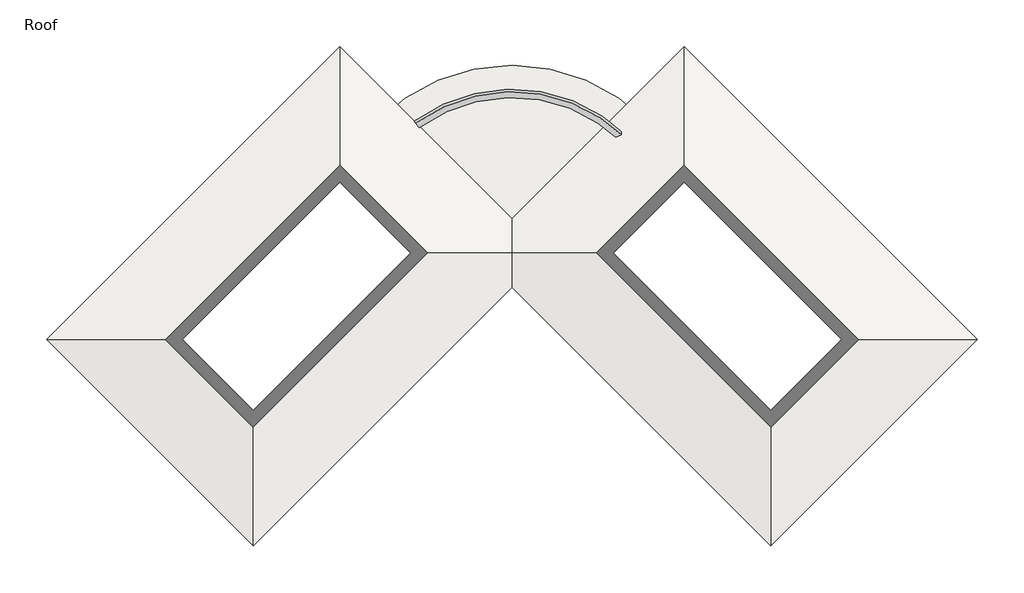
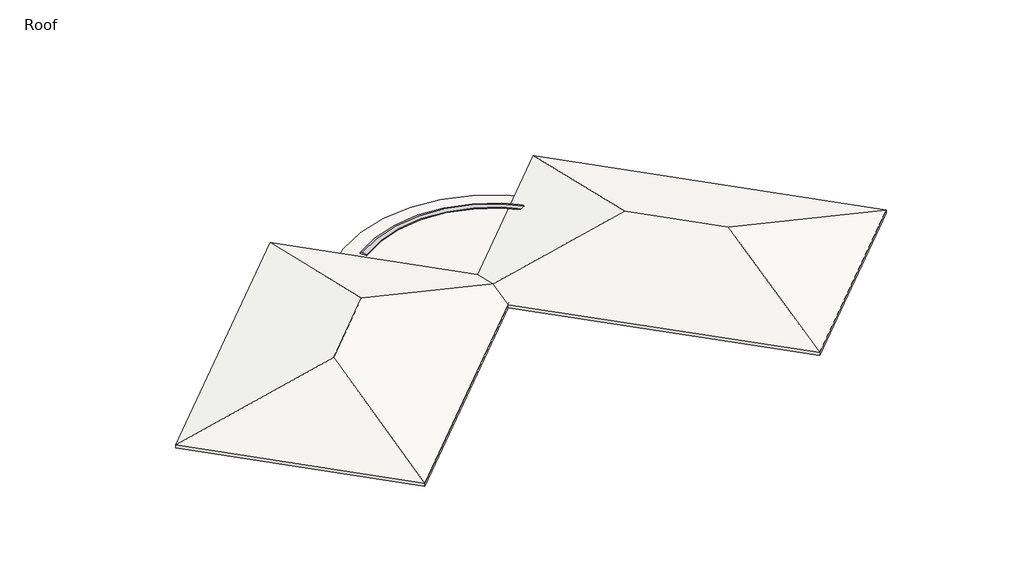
# One storey: 9 proxies, 3 roofs.
"""IFC4 building model written with IfcOpenShell, lengths in millimetres."""

from ifc_helpers import new_model, si_unit, point, frame, frame_2d, origin, place, context, project, spatial, polyline, circle_curve, trimmed, segment, composite_curve, outline, extrude, faceted_brep, element, save
from ifc_brep_helpers import plane_surface, cylinder_surface, revolved_surface, advanced_brep

model = new_model("IFC4")

# Units and contexts
model_context = context("Model", 3, world=origin())
ifc_project = project(units=[si_unit("LENGTHUNIT", "METRE", prefix="MILLI")], contexts=[model_context])

# Site, building, storey
site = spatial("IfcSite", under=ifc_project)
building = spatial("IfcBuilding", under=site)
storey = spatial("IfcBuildingStorey", under=building, Name="Roof", Elevation=4572.0)

# Proxies
placement = place(None, origin())
element("IfcBuildingElementProxy", 1, Name="Wall Sweeps", at=placement, inside=storey, context=model_context, shape_type="Brep", body=[
    faceted_brep([(4057.9485283, 9339.6949534, 4635.5), (3860.3828937, 9537.2605881, 4673.6), (3770.5803325, 9627.0631493, 4635.5), (3770.5803325, 9627.0631493, 4572.0), (4057.9485283, 9339.6949534, 4572.0), (5753.0175119, 11034.763937, 4635.5), (5753.0175119, 11034.763937, 4572.0), (5753.0175119, 11609.5003287, 4572.0), (5753.0175119, 11609.5003287, 4635.5), (5753.0175119, 11429.8952063, 4673.6)], [[[0, 1, 2, 3, 4]], [[5, 6, 7, 8, 9]], [[1, 0, 5, 9]], [[2, 1, 9, 8]], [[3, 2, 8, 7]], [[4, 3, 7, 6]], [[0, 4, 6, 5]]]),
])
element("IfcBuildingElementProxy", 2, Name="Wall Sweeps", at=placement, inside=storey, context=model_context, shape_type="Brep", body=[
    faceted_brep([(5753.0175119, 11034.763937, 4635.5), (5753.0175119, 11429.8952063, 4673.6), (5753.0175119, 11609.5003287, 4635.5), (5753.0175119, 11609.5003287, 4572.0), (5753.0175119, 11034.763937, 4572.0), (18145.770959, -1357.9895101, 4635.5), (18145.770959, -1357.9895101, 4572.0), (18720.5073507, -1357.9895101, 4572.0), (18720.5073507, -1357.9895101, 4635.5), (18540.9022283, -1357.9895101, 4673.6)], [[[0, 1, 2, 3, 4]], [[5, 6, 7, 8, 9]], [[1, 0, 5, 9]], [[2, 1, 9, 8]], [[3, 2, 8, 7]], [[4, 3, 7, 6]], [[0, 4, 6, 5]]]),
])
element("IfcBuildingElementProxy", 3, Name="Wall Sweeps", at=placement, inside=storey, context=model_context, shape_type="Brep", body=[
    faceted_brep([(18145.770959, -1357.9895101, 4635.5), (18540.9022283, -1357.9895101, 4673.6), (18720.5073507, -1357.9895101, 4635.5), (18720.5073507, -1357.9895101, 4572.0), (18145.770959, -1357.9895101, 4572.0), (10063.54045, -9440.2200191, 4635.5), (10063.54045, -9440.2200191, 4572.0), (10063.54045, -10014.9564108, 4572.0), (10063.54045, -10014.9564108, 4635.5), (10063.54045, -9835.3512884, 4673.6)], [[[0, 1, 2, 3, 4]], [[5, 6, 7, 8, 9]], [[1, 0, 5, 9]], [[2, 1, 9, 8]], [[3, 2, 8, 7]], [[4, 3, 7, 6]], [[0, 4, 6, 5]]]),
])
element("IfcBuildingElementProxy", 4, Name="Wall Sweeps", at=placement, inside=storey, context=model_context, shape_type="Brep", body=[
    faceted_brep([(10063.54045, -9440.2200191, 4635.5), (10063.54045, -9835.3512884, 4673.6), (10063.54045, -10014.9564108, 4635.5), (10063.54045, -10014.9564108, 4572.0), (10063.54045, -9440.2200191, 4572.0), (-1736.5160931, 2359.836524, 4635.5), (-1736.5160931, 2359.836524, 4572.0), (-1756.7216693, 2339.6309478, 4572.0), (-2005.9237767, 2090.4288404, 4572.0), (-2023.8842889, 2072.4683282, 4572.0), (-2023.8842889, 2072.4683282, 4635.5), (-1934.0817277, 2162.2708894, 4673.6)], [[[0, 1, 2, 3, 4]], [[5, 6, 7, 8, 9, 10, 11]], [[1, 0, 5, 11]], [[2, 1, 11, 10]], [[3, 2, 10, 9]], [[4, 3, 9, 8, 7, 6]], [[0, 4, 6, 5]]]),
    faceted_brep([(-2598.6206807, 3221.9411117, 4635.5), (-2796.1863153, 3024.375477, 4673.6), (-2885.9888765, 2934.5729158, 4635.5), (-2885.9888765, 2934.5729158, 4572.0), (-2598.6206807, 3221.9411117, 4572.0), (-2847.822788, 3471.143219, 4635.5), (-2847.822788, 3471.143219, 4572.0), (-3135.1909839, 3183.7750231, 4572.0), (-3135.1909839, 3183.7750231, 4635.5), (-3045.3884227, 3273.5775843, 4673.6)], [[[0, 1, 2, 3, 4]], [[5, 6, 7, 8, 9]], [[1, 0, 5, 9]], [[2, 1, 9, 8]], [[3, 2, 8, 7]], [[4, 3, 7, 6]], [[0, 4, 6, 5]]]),
])
element("IfcBuildingElementProxy", 5, Name="Wall Sweeps", at=placement, inside=storey, context=model_context, shape_type="Brep", body=[
    faceted_brep([(-3137.4360479, 3221.9411117, 4635.5), (-2939.8704133, 3024.375477, 4673.6), (-2850.0678521, 2934.5729158, 4635.5), (-2850.0678521, 2934.5729158, 4572.0), (-2868.0283643, 2952.533428, 4572.0), (-3117.2304717, 3201.7355354, 4572.0), (-3137.4360479, 3221.9411117, 4572.0), (-15799.5971786, -9440.2200191, 4635.5), (-15799.5971786, -9440.2200191, 4572.0), (-15799.5971786, -10014.9564108, 4572.0), (-15799.5971786, -10014.9564108, 4635.5), (-15799.5971786, -9835.3512884, 4673.6)], [[[0, 1, 2, 3, 4, 5, 6]], [[7, 8, 9, 10, 11]], [[1, 0, 7, 11]], [[2, 1, 11, 10]], [[3, 2, 10, 9]], [[6, 5, 4, 3, 9, 8]], [[0, 6, 8, 7]]]),
])
element("IfcBuildingElementProxy", 6, Name="Wall Sweeps", at=placement, inside=storey, context=model_context, shape_type="Brep", body=[
    faceted_brep([(-15799.5971786, -9440.2200191, 4635.5), (-15799.5971786, -9835.3512884, 4673.6), (-15799.5971786, -10014.9564108, 4635.5), (-15799.5971786, -10014.9564108, 4572.0), (-15799.5971786, -9440.2200191, 4572.0), (-23881.8276876, -1357.9895101, 4635.5), (-23881.8276876, -1357.9895101, 4572.0), (-24456.5640794, -1357.9895101, 4572.0), (-24456.5640794, -1357.9895101, 4635.5), (-24276.9589569, -1357.9895101, 4673.6)], [[[0, 1, 2, 3, 4]], [[5, 6, 7, 8, 9]], [[1, 0, 5, 9]], [[2, 1, 9, 8]], [[3, 2, 8, 7]], [[4, 3, 7, 6]], [[0, 4, 6, 5]]]),
])
element("IfcBuildingElementProxy", 7, Name="Wall Sweeps", at=placement, inside=storey, context=model_context, shape_type="Brep", body=[
    faceted_brep([(-23881.8276876, -1357.9895101, 4635.5), (-24276.9589569, -1357.9895101, 4673.6), (-24456.5640794, -1357.9895101, 4635.5), (-24456.5640794, -1357.9895101, 4572.0), (-23881.8276876, -1357.9895101, 4572.0), (-11489.0742405, 11034.763937, 4635.5), (-11489.0742405, 11034.763937, 4572.0), (-11489.0742405, 11609.5003287, 4572.0), (-11489.0742405, 11609.5003287, 4635.5), (-11489.0742405, 11429.8952063, 4673.6)], [[[0, 1, 2, 3, 4]], [[5, 6, 7, 8, 9]], [[1, 0, 5, 9]], [[2, 1, 9, 8]], [[3, 2, 8, 7]], [[4, 3, 7, 6]], [[0, 4, 6, 5]]]),
])
element("IfcBuildingElementProxy", 8, Name="Wall Sweeps", at=placement, inside=storey, context=model_context, shape_type="Brep", body=[
    faceted_brep([(-11489.0742405, 11034.763937, 4635.5), (-11489.0742405, 11429.8952063, 4673.6), (-11489.0742405, 11609.5003287, 4635.5), (-11489.0742405, 11609.5003287, 4572.0), (-11489.0742405, 11034.763937, 4572.0), (-8931.8939077, 8477.5836041, 4635.5), (-8931.8939077, 8477.5836041, 4572.0), (-8911.6883314, 8497.7891804, 4572.0), (-8662.486224, 8746.9912878, 4572.0), (-8644.5257118, 8764.9518, 4572.0), (-8644.5257118, 8764.9518, 4635.5), (-8734.328273, 8675.1492388, 4673.6), (-8836.2976328, 8573.179879, 4653.9354839), (-8911.6883314, 8497.7891804, 4639.3965909)], [[[0, 1, 2, 3, 4]], [[5, 6, 7, 8, 9, 10, 11, 12, 13]], [[1, 0, 5, 13, 12, 11]], [[2, 1, 11, 10]], [[3, 2, 10, 9]], [[4, 3, 9, 8, 7, 6]], [[0, 4, 6, 5]]]),
])
element("IfcBuildingElementProxy", 9, Name="Wall Sweeps", at=placement, inside=storey, context=model_context, shape_type="AdvancedBrep", body=[
    advanced_brep(
    [(-7507.26102, 9233.8641208, 4635.5), (-7672.4116971, 9459.2296325, 4673.6), (-7747.4801867, 9561.6685015, 4635.5), (-7747.4801867, 9561.6685015, 4572.0), (-7507.26102, 9233.8641208, 4572.0), (2658.1675575, 8476.4427105, 4635.5), (2658.1675575, 8476.4427105, 4572.0), (2944.3136246, 8765.0278596, 4572.0), (2944.3136246, 8765.0278596, 4635.5), (2854.8929786, 8674.8450005, 4673.6)],
    [
        (0, 1),
        (1, 2),
        (2, 3),
        (3, 4),
        (4, 0),
        (5, 6),
        (6, 7),
        (7, 8),
        (8, 9),
        (9, 5),
        (9, 1, circle_curve(frame((-2868.0283643, 2903.1420194, 4673.6), z_axis=(0.0, 0.0, 1.0), x_axis=(-0.591090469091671, 0.8066052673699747, 0.0)), 8128.0)),
        (0, 5, circle_curve(frame((-2868.0283643, 2903.1420194, 4635.5), z_axis=(0.0, 0.0, -1.0), x_axis=(-0.591090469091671, 0.8066052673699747, 0.0)), 7848.6)),
        (8, 2, circle_curve(frame((-2868.0283643, 2903.1420194, 4635.5), z_axis=(0.0, 0.0, 1.0), x_axis=(-0.591090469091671, 0.8066052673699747, 0.0)), 8255.0)),
        (7, 3, circle_curve(frame((-2868.0283643, 2903.1420194, 4572.0), z_axis=(0.0, 0.0, 1.0), x_axis=(-0.591090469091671, 0.8066052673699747, 0.0)), 8255.0)),
        (6, 4, circle_curve(frame((-2868.0283643, 2903.1420194, 4572.0), z_axis=(0.0, 0.0, 1.0), x_axis=(-0.591090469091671, 0.8066052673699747, 0.0)), 7848.6)),
    ],
    [
        plane_surface(frame((-2868.0283643, 2903.1420194, 4572.0), z_axis=(-0.8066052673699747, -0.591090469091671, 0.0), x_axis=(-0.591090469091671, 0.8066052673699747, 0.0))),
        plane_surface(frame((-2868.0283643, 2903.1420194, 4572.0), z_axis=(0.7101012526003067, -0.704099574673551, 0.0), x_axis=(0.704099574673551, 0.7101012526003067, 0.0))),
        revolved_surface(polyline([(-7507.26102, 9233.8641208, 4635.5), (-7672.4116971, 9459.2296325, 4673.6)]), (-2868.0283643, 2903.1420194, 4572.0), (0.0, 0.0, -1.0)),
        revolved_surface(polyline([(-7672.4116971, 9459.2296325, 4673.6), (-7747.4801867, 9561.6685015, 4635.5)]), (-2868.0283643, 2903.1420194, 4572.0), (0.0, 0.0, -1.0)),
        cylinder_surface(frame((-2868.0283643, 2903.1420194, 4572.0), z_axis=(0.0, 0.0, -1.0), x_axis=(-0.591090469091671, 0.8066052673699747, 0.0)), 8255.0),
        plane_surface(frame((-2868.0283643, 2903.1420194, 4572.0), z_axis=(0.0, 0.0, -1.0), x_axis=(-0.591090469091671, 0.8066052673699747, 0.0))),
        revolved_surface(polyline([(-7507.261020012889, 9233.864120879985, 4572.0), (-7507.261020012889, 9233.864120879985, 4635.5)]), (-2868.0283643, 2903.1420194, 4572.0), (0.0, 0.0, -1.0)),
    ],
    [
        (0, [[1, 2, 3, 4, 5]]),
        (1, [[6, 7, 8, 9, 10]]),
        (2, [[11, -1, 12, -10]]),
        (3, [[13, -2, -11, -9]]),
        (4, [[14, -3, -13, -8]]),
        (5, [[15, -4, -14, -7]]),
        (6, [[-12, -5, -15, -6]]),
    ],
),
])

# Roofs
element("IfcRoof", 10, ObjectType="Insulation on Metal Deck - EPDM", at=placement, inside=storey, context=model_context, shape_type="Brep", body=[
    faceted_brep([(-11489.0742405, 13297.7884795, 4165.6), (-11489.0742405, 2952.533428, 6604.0), (-15799.5971786, -1357.9895101, 6604.0), (-26144.8522301, -1357.9895101, 4165.6), (-15799.5971786, -11703.2445616, 4165.6), (-1143.8191891, 2952.533428, 4165.6), (-11489.0742405, 13297.7884795, 4373.0981191), (-26144.8522301, -1357.9895101, 4373.0981191), (-15799.5971786, -1357.9895101, 6811.4981191), (-11489.0742405, 2952.533428, 6811.4981191), (-15799.5971786, -11703.2445616, 4373.0981191), (-1143.8191891, 2952.533428, 4373.0981191)], [[[0, 1, 2, 3]], [[3, 2, 4]], [[4, 2, 1, 5]], [[1, 0, 5]], [[6, 7, 8, 9]], [[7, 10, 8]], [[10, 11, 9, 8]], [[6, 9, 11]], [[3, 7, 6, 0]], [[4, 10, 7, 3]], [[5, 11, 10, 4]], [[0, 6, 11, 5]]]),
])
element("IfcRoof", 11, ObjectType="Insulation on Metal Deck - EPDM", at=placement, inside=storey, context=model_context, shape_type="SweptSolid", body=[
    extrude(outline(composite_curve([segment(trimmed(circle_curve(frame_2d((-2868.0283643, 2903.1420194)), 9448.8), [point((-9648.4972858, 9483.8002421))], [point((3912.4405572, 9483.8002421))], False, "CARTESIAN"), True, "CONTINUOUS"), segment(polyline([(3912.4405572, 9483.8002421), (-2868.0283643, 2703.3313207), (-9648.4972858, 9483.8002421)]), True, "CONTINUOUS")], self_intersect=False)), frame((0.0, 0.0, 4165.6), z_axis=(0.0, 0.0, 1.0), x_axis=(1.0, 0.0, 0.0)), (0.0, 0.0, 1.0), 196.85),
])
element("IfcRoof", 12, ObjectType="Insulation on Metal Deck - EPDM", at=placement, inside=storey, context=model_context, shape_type="Brep", body=[
    faceted_brep([(5753.0175119, 2952.533428, 6604.0), (5753.0175119, 13297.7884795, 4165.6), (20408.7955015, -1357.9895101, 4165.6), (10063.54045, -1357.9895101, 6604.0), (10063.54045, -11703.2445616, 4165.6), (-4592.2375396, 2952.533428, 4165.6), (5753.0175119, 13297.7884795, 4373.0981191), (5753.0175119, 2952.533428, 6811.4981191), (10063.54045, -1357.9895101, 6811.4981191), (20408.7955015, -1357.9895101, 4373.0981191), (10063.54045, -11703.2445616, 4373.0981191), (-4592.2375396, 2952.533428, 4373.0981191)], [[[0, 1, 2, 3]], [[4, 3, 2]], [[5, 0, 3, 4]], [[1, 0, 5]], [[6, 7, 8, 9]], [[10, 9, 8]], [[11, 10, 8, 7]], [[6, 11, 7]], [[1, 6, 9, 2]], [[2, 9, 10, 4]], [[4, 10, 11, 5]], [[5, 11, 6, 1]]]),
])

save(model, "model.ifc")
